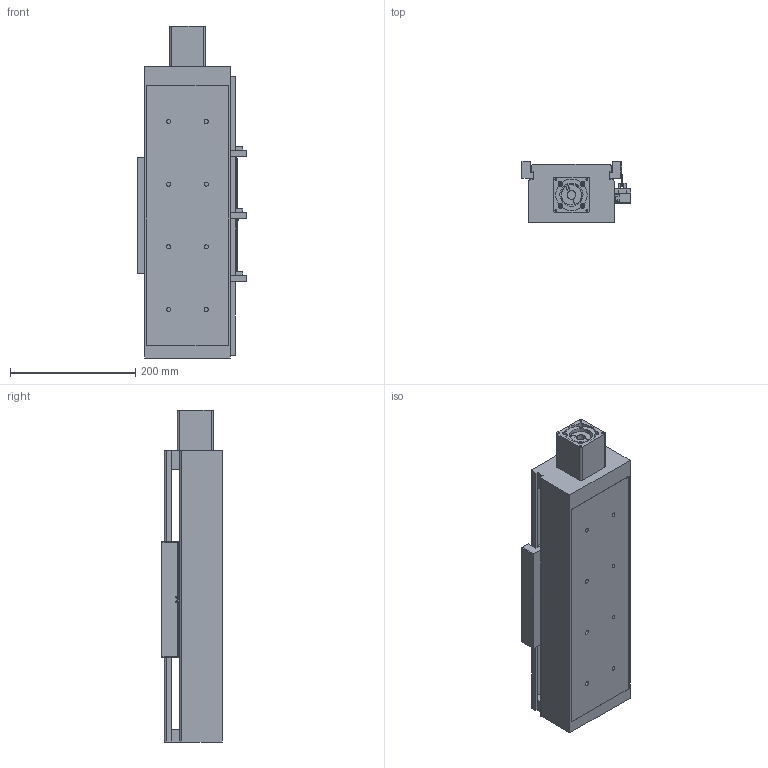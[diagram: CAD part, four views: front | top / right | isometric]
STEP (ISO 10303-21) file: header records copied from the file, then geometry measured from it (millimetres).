
FILE_DESCRIPTION((''),'2;1');
FILE_NAME('E:\libraries\UIA actuator library 2009\standard actuator\UIA136 ball screw 20\UIA136R15NDC stp file 27Apr16\UIA136R15NDC-200-R20_ _-M60-P13-C10-S.stp','2016-04-27T13:14:17',('h029'),(''),'Autodesk Inventor 11','Autodesk Inventor 11','');
FILE_SCHEMA(('AUTOMOTIVE_DESIGN { 1 0 10303 214 1 1 1 1 }'));
Length unit declared in the file: millimetre
Products named in the file (10): UIA136R15NDC-200; UIA136R15NDC-body; motor mount F60; SOH-32C; SOH-32C-3; SOH-32C-1; SOH-32C-2; Carriage; Sensor Switch; sensor rail
Assembly tree (9 placements, depth 3):
  UIA136R15NDC-200
    UIA136R15NDC-body
    motor mount F60
    SOH-32C
      SOH-32C-3
      SOH-32C-1
      SOH-32C-2
    Carriage
    Sensor Switch
    sensor rail
Bounding box: 174.5 x 98 x 530 mm (x, y, z)
Volume: 2470450.6 mm3; surface area: 607291.2 mm2
Topology: 8 solids, 8 shells, 467 faces, 1245 edges, 817 vertices
Faces by surface type: plane 311, bspline 114, cylinder 38, cone 4
Full cylindrical faces by diameter (mm): 2.459 x2, 3.242 x2, 4.5 x2, 5.5 x3, 7.5 x2, 10 x2, 12 x1, 14 x1, 32 x3, 37 x1, 41.9 x1, 42.1 x1, 43.5 x1
Entity records: 15315 total; most frequent: CARTESIAN_POINT 4370, ORIENTED_EDGE 2130, DIRECTION 2066, EDGE_CURVE 1065, VECTOR 790, LINE 790, VERTEX_POINT 752, EDGE_LOOP 673
